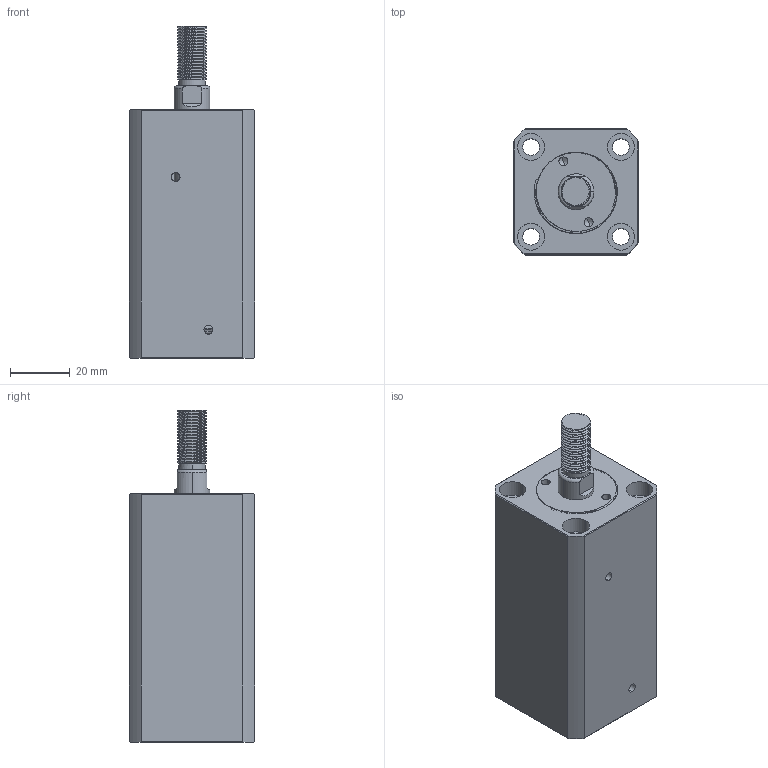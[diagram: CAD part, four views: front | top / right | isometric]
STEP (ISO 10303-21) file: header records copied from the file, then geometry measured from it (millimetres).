
FILE_DESCRIPTION (( 'STEP AP214' ), '1' );
FILE_NAME ('chtb-sdmb20x40w_asm.STEP', '2018-05-18T08:34:51', ( 'Windows' ), ( 'Microsoft' ), 'SwSTEP 2.0', 'SolidWorks 2015', '' );
FILE_SCHEMA (( 'AUTOMOTIVE_DESIGN' ));
Length unit declared in the file: millimetre
Products named in the file (4): QG_3; CHTB-SDMB20X40WHSG; CHTB-SDMB20X40NBT; chtb-sdmb20x40w_asm
Assembly tree (3 placements, depth 2):
  chtb-sdmb20x40w_asm
    CHTB-SDMB20X40NBT
    CHTB-SDMB20X40WHSG
    QG_3
Bounding box: 42 x 42 x 111 mm (x, y, z)
Volume: 126340.1 mm3; surface area: 38445.9 mm2
Topology: 3 solids, 3 shells, 243 faces, 660 edges, 439 vertices
Faces by surface type: cylinder 143, plane 47, torus 25, bspline 23, cone 5
Entity records: 14768 total; most frequent: CARTESIAN_POINT 8984, ORIENTED_EDGE 1312, DIRECTION 1058, EDGE_CURVE 656, VERTEX_POINT 439, AXIS2_PLACEMENT_3D 434, EDGE_LOOP 281, FACE_OUTER_BOUND 243
